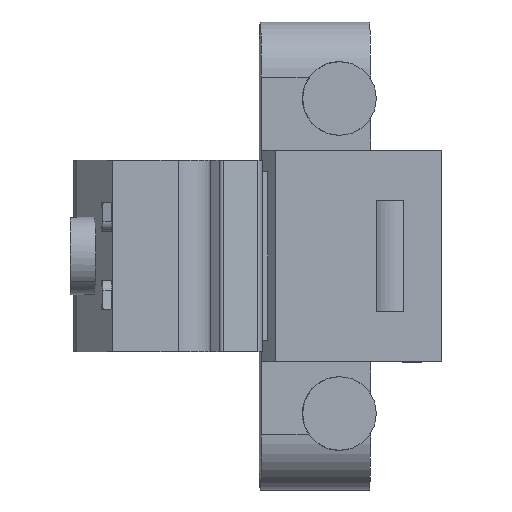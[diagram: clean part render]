
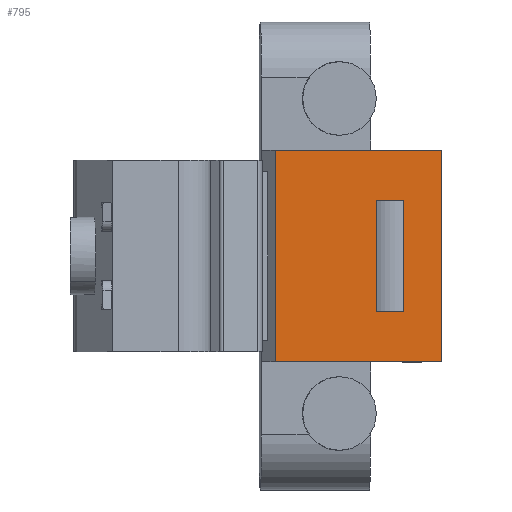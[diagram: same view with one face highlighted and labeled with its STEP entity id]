
A CAD part, left-side view. The second image highlights one B-rep face of the part: STEP entity #795.
In plain terms, the highlighted planar face has unit normal (-1, -0.022, 0).
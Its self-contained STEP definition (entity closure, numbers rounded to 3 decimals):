
#4 = VERTEX_POINT ( 'NONE', #737 ) ;
#27 = EDGE_CURVE ( 'NONE', #1871, #5227, #3082, .T. ) ;
#208 = CARTESIAN_POINT ( 'NONE',  ( -3.119, -14.127, -9.4 ) ) ;
#240 = LINE ( 'NONE', #3693, #278 ) ;
#278 = VECTOR ( 'NONE', #1952, 1000. ) ;
#333 = VERTEX_POINT ( 'NONE', #4778 ) ;
#385 = LINE ( 'NONE', #6223, #597 ) ;
#495 = EDGE_CURVE ( 'NONE', #1275, #5495, #2926, .T. ) ;
#597 = VECTOR ( 'NONE', #3335, 1000. ) ;
#603 = EDGE_CURVE ( 'NONE', #4171, #1275, #4663, .T. ) ;
#627 = VECTOR ( 'NONE', #7622, 1000. ) ;
#702 = ORIENTED_EDGE ( 'NONE', *, *, #603, .T. ) ;
#733 = ORIENTED_EDGE ( 'NONE', *, *, #27, .F. ) ;
#737 = CARTESIAN_POINT ( 'NONE',  ( -2.924, -23.117, 4.95 ) ) ;
#795 = ADVANCED_FACE ( 'NONE', ( #2208, #2040 ), #4561, .F. ) ;
#1174 = DIRECTION ( 'NONE',  ( 0., 0., 1. ) ) ;
#1208 = CARTESIAN_POINT ( 'NONE',  ( -2.924, -23.117, -13.674 ) ) ;
#1275 = VERTEX_POINT ( 'NONE', #2736 ) ;
#1405 = VECTOR ( 'NONE', #2500, 1000. ) ;
#1427 = DIRECTION ( 'NONE',  ( 0., 0., -1. ) ) ;
#1693 = CARTESIAN_POINT ( 'NONE',  ( -3.096, -15.188, -4.95 ) ) ;
#1871 = VERTEX_POINT ( 'NONE', #3081 ) ;
#1952 = DIRECTION ( 'NONE',  ( 0.022, -1., 0. ) ) ;
#2027 = AXIS2_PLACEMENT_3D ( 'NONE', #3455, #6746, #1427 ) ;
#2040 = FACE_BOUND ( 'NONE', #7630, .T. ) ;
#2163 = EDGE_LOOP ( 'NONE', ( #2893, #6766, #2358, #733 ) ) ;
#2208 = FACE_OUTER_BOUND ( 'NONE', #2163, .T. ) ;
#2304 = LINE ( 'NONE', #5235, #627 ) ;
#2358 = ORIENTED_EDGE ( 'NONE', *, *, #3048, .T. ) ;
#2500 = DIRECTION ( 'NONE',  ( -0.022, 1., 0. ) ) ;
#2727 = VECTOR ( 'NONE', #1174, 1000. ) ;
#2736 = CARTESIAN_POINT ( 'NONE',  ( -2.872, -25.533, -4.95 ) ) ;
#2825 = CARTESIAN_POINT ( 'NONE',  ( -2.798, -28.924, 9.4 ) ) ;
#2848 = DIRECTION ( 'NONE',  ( -0.022, 1., 0. ) ) ;
#2893 = ORIENTED_EDGE ( 'NONE', *, *, #4464, .F. ) ;
#2926 = LINE ( 'NONE', #1693, #6818 ) ;
#3048 = EDGE_CURVE ( 'NONE', #333, #5227, #385, .T. ) ;
#3081 = CARTESIAN_POINT ( 'NONE',  ( -2.798, -28.924, -9.4 ) ) ;
#3082 = LINE ( 'NONE', #3197, #1405 ) ;
#3197 = CARTESIAN_POINT ( 'NONE',  ( -3.145, -12.928, -9.4 ) ) ;
#3335 = DIRECTION ( 'NONE',  ( 0., 0., -1. ) ) ;
#3455 = CARTESIAN_POINT ( 'NONE',  ( -2.798, -28.924, 9.4 ) ) ;
#3693 = CARTESIAN_POINT ( 'NONE',  ( -3.145, -12.928, 9.4 ) ) ;
#3795 = ORIENTED_EDGE ( 'NONE', *, *, #6857, .T. ) ;
#3861 = VECTOR ( 'NONE', #6298, 1000. ) ;
#3980 = CARTESIAN_POINT ( 'NONE',  ( -2.798, -28.924, 9.4 ) ) ;
#4171 = VERTEX_POINT ( 'NONE', #4971 ) ;
#4420 = EDGE_CURVE ( 'NONE', #333, #4487, #240, .T. ) ;
#4464 = EDGE_CURVE ( 'NONE', #4487, #1871, #6261, .T. ) ;
#4487 = VERTEX_POINT ( 'NONE', #3980 ) ;
#4561 = PLANE ( 'NONE',  #2027 ) ;
#4663 = LINE ( 'NONE', #7626, #5345 ) ;
#4680 = LINE ( 'NONE', #1208, #2727 ) ;
#4778 = CARTESIAN_POINT ( 'NONE',  ( -3.119, -14.127, 9.4 ) ) ;
#4971 = CARTESIAN_POINT ( 'NONE',  ( -2.872, -25.533, 4.95 ) ) ;
#5227 = VERTEX_POINT ( 'NONE', #208 ) ;
#5235 = CARTESIAN_POINT ( 'NONE',  ( -3.096, -15.188, 4.95 ) ) ;
#5345 = VECTOR ( 'NONE', #6440, 1000. ) ;
#5495 = VERTEX_POINT ( 'NONE', #6617 ) ;
#6223 = CARTESIAN_POINT ( 'NONE',  ( -3.119, -14.127, 9.4 ) ) ;
#6261 = LINE ( 'NONE', #2825, #3861 ) ;
#6298 = DIRECTION ( 'NONE',  ( 0., 0., -1. ) ) ;
#6440 = DIRECTION ( 'NONE',  ( 0., 0., -1. ) ) ;
#6617 = CARTESIAN_POINT ( 'NONE',  ( -2.924, -23.117, -4.95 ) ) ;
#6746 = DIRECTION ( 'NONE',  ( 1., 0.022, 0. ) ) ;
#6766 = ORIENTED_EDGE ( 'NONE', *, *, #4420, .F. ) ;
#6818 = VECTOR ( 'NONE', #2848, 1000. ) ;
#6857 = EDGE_CURVE ( 'NONE', #5495, #4, #4680, .T. ) ;
#6917 = ORIENTED_EDGE ( 'NONE', *, *, #7515, .T. ) ;
#7291 = ORIENTED_EDGE ( 'NONE', *, *, #495, .T. ) ;
#7515 = EDGE_CURVE ( 'NONE', #4, #4171, #2304, .T. ) ;
#7622 = DIRECTION ( 'NONE',  ( 0.022, -1., 0. ) ) ;
#7626 = CARTESIAN_POINT ( 'NONE',  ( -2.872, -25.533, -13.674 ) ) ;
#7630 = EDGE_LOOP ( 'NONE', ( #3795, #6917, #702, #7291 ) ) ;
